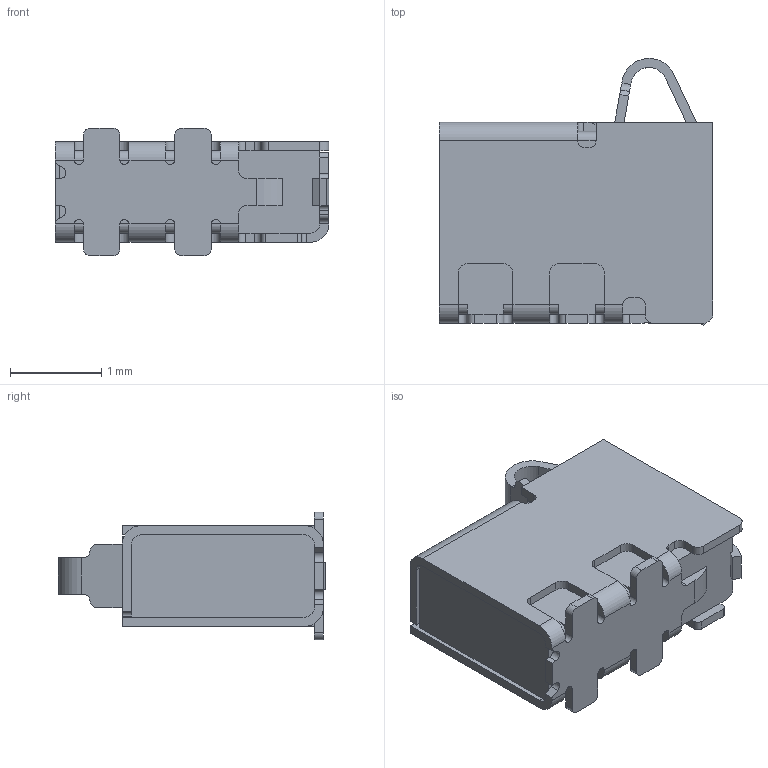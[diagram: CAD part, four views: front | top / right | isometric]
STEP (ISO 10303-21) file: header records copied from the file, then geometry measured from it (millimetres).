
FILE_DESCRIPTION((''),'2;1');
FILE_NAME('3D-2014004-00-00_ASM','2022-04-25T',('TPS'),(''),'CREO PARAMETRIC BY PTC INC, 2015290','CREO PARAMETRIC BY PTC INC, 2015290','');
FILE_SCHEMA(('CONFIG_CONTROL_DESIGN'));
Products named in the file (2): 3D-2014004-00-00; 3D-2014004-00-00_ASM
Assembly tree (1 placements, depth 2):
  3D-2014004-00-00_ASM
    3D-2014004-00-00
Bounding box: 3 x 2.92 x 1.4 mm (x, y, z)
Volume: 6.8 mm3; surface area: 29.5 mm2
Topology: 1 solids, 1 shells, 223 faces, 613 edges, 392 vertices
Faces by surface type: plane 133, cylinder 90
Entity records: 7120 total; most frequent: DIRECTION 1245, CARTESIAN_POINT 1231, ORIENTED_EDGE 1226, EDGE_CURVE 613, VECTOR 433, LINE 433, AXIS2_PLACEMENT_3D 406, VERTEX_POINT 392
